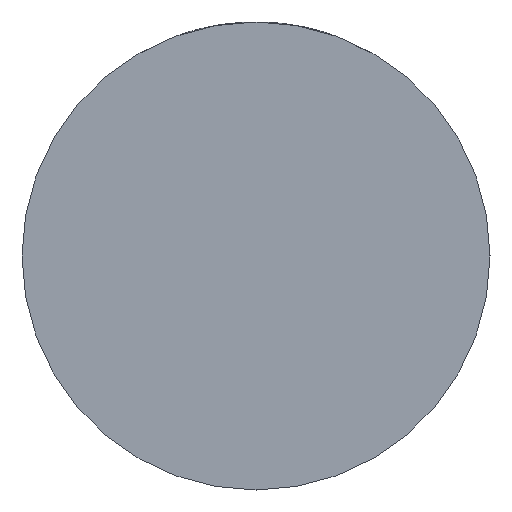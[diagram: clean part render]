
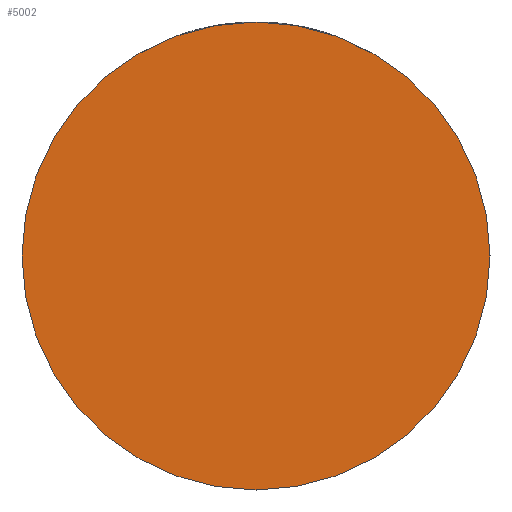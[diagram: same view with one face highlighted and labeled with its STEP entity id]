
A CAD part, front view. The second image highlights one B-rep face of the part: STEP entity #5002.
In plain terms, the highlighted planar face has unit normal (0, -1, 0).
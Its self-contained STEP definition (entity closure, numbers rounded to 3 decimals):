
#249 = VERTEX_POINT ( 'NONE', #4631 ) ;
#263 = ORIENTED_EDGE ( 'NONE', *, *, #416, .F. ) ;
#416 = EDGE_CURVE ( 'NONE', #249, #5242, #5097, .T. ) ;
#483 = FACE_OUTER_BOUND ( 'NONE', #1386, .T. ) ;
#656 = ORIENTED_EDGE ( 'NONE', *, *, #5108, .F. ) ;
#693 = CARTESIAN_POINT ( 'NONE',  ( 0., -21., 0. ) ) ;
#1195 = AXIS2_PLACEMENT_3D ( 'NONE', #1557, #2024, #3683 ) ;
#1386 = EDGE_LOOP ( 'NONE', ( #263, #656 ) ) ;
#1557 = CARTESIAN_POINT ( 'NONE',  ( 0., -21., 0. ) ) ;
#1677 = CIRCLE ( 'NONE', #2803, 34. ) ;
#2024 = DIRECTION ( 'NONE',  ( 0., 1., 0. ) ) ;
#2246 = DIRECTION ( 'NONE',  ( 1., 0., 0. ) ) ;
#2719 = CARTESIAN_POINT ( 'NONE',  ( 34., -21., 0. ) ) ;
#2803 = AXIS2_PLACEMENT_3D ( 'NONE', #693, #3232, #4827 ) ;
#3232 = DIRECTION ( 'NONE',  ( 0., 1., 0. ) ) ;
#3383 = DIRECTION ( 'NONE',  ( 0., -1., 0. ) ) ;
#3683 = DIRECTION ( 'NONE',  ( -1., 0., 0. ) ) ;
#4325 = CARTESIAN_POINT ( 'NONE',  ( 0., -21., 0. ) ) ;
#4470 = AXIS2_PLACEMENT_3D ( 'NONE', #4325, #3383, #2246 ) ;
#4631 = CARTESIAN_POINT ( 'NONE',  ( -34., -21., 0. ) ) ;
#4827 = DIRECTION ( 'NONE',  ( -1., 0., 0. ) ) ;
#5002 = ADVANCED_FACE ( 'NONE', ( #483 ), #5111, .T. ) ;
#5097 = CIRCLE ( 'NONE', #1195, 34. ) ;
#5108 = EDGE_CURVE ( 'NONE', #5242, #249, #1677, .T. ) ;
#5111 = PLANE ( 'NONE',  #4470 ) ;
#5242 = VERTEX_POINT ( 'NONE', #2719 ) ;
